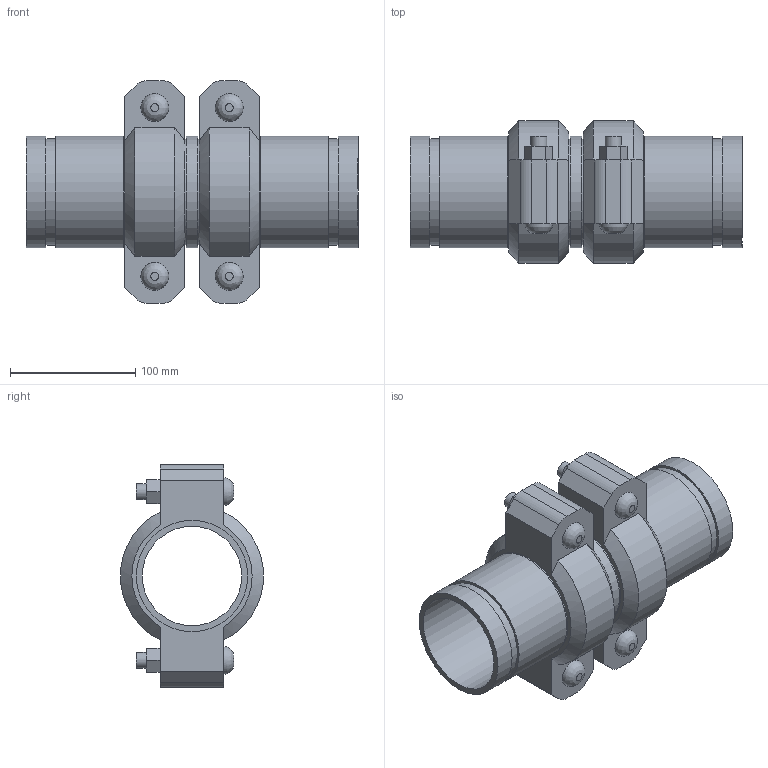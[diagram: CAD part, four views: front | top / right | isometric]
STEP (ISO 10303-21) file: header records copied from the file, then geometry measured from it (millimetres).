
FILE_DESCRIPTION(/* description */ ('VIC SS EXPANSION JOINT 2 COUPLINGS NEUTRAL STYLE 155P (OGS) (POTABLE WATER) ','CAx-IF Rec.Pracs.---Representation and Presentation of Product Manufacturing Information (PMI)---4.0---2014-10-13'),/* implementation_level */ '2;1');
FILE_NAME(/* name */ 'C:\Users\kkamble\AppData\Roaming\Autodesk\ApplicationPlugins\Victaulic.Temp\A659\Victaulic_SS_Expansion Joint_Neutral_2 Couplings_Style 155P (OGS)-Potable Water_2 Coup_Neut_3 (80).stp',/* time_stamp */ '2021-07-16T16:31:03+05:00',/* author */ ('kkamble'),/* organization */ ('Victaulic'),/* preprocessor_version */ 'ST-DEVELOPER v17.2',/* originating_system */ 'Autodesk Inventor 2019',/* authorisation */ '');
FILE_SCHEMA (('AP242_MANAGED_MODEL_BASED_3D_ENGINEERING_MIM_LF { 1 0 10303 442 1 1 4 }'));
Length unit declared in the file: inch
Products named in the file (4): 155P-03.0; Nipple-03.0; Nipple-03.0_1; 075-03.0
Assembly tree (5 placements, depth 2):
  155P-03.0
    Nipple-03.0  x2
    Nipple-03.0_1
    075-03.0  x2
Bounding box: 264.92 x 113.88 x 177.8 mm (x, y, z)
Volume: 969814.4 mm3; surface area: 273126.6 mm2
Topology: 5 solids, 9 shells, 150 faces, 356 edges, 252 vertices
Faces by surface type: plane 90, cylinder 48, cone 8, bspline 4
Full cylindrical faces by diameter (mm): 12.7 x8, 14.605 x4, 79.35 x3, 82.55 x2, 84.938 x6, 88.9 x13
Entity records: 2753 total; most frequent: CARTESIAN_POINT 489, DIRECTION 453, ORIENTED_EDGE 386, EDGE_CURVE 193, AXIS2_PLACEMENT_3D 180, VERTEX_POINT 138, EDGE_LOOP 107, LINE 93
